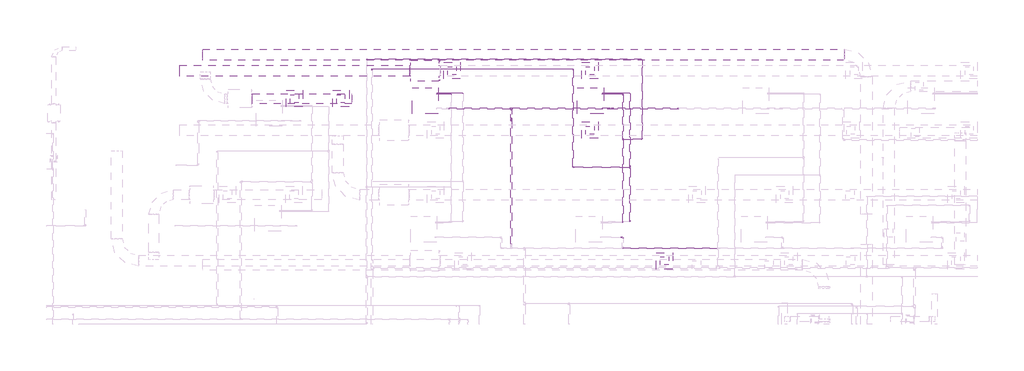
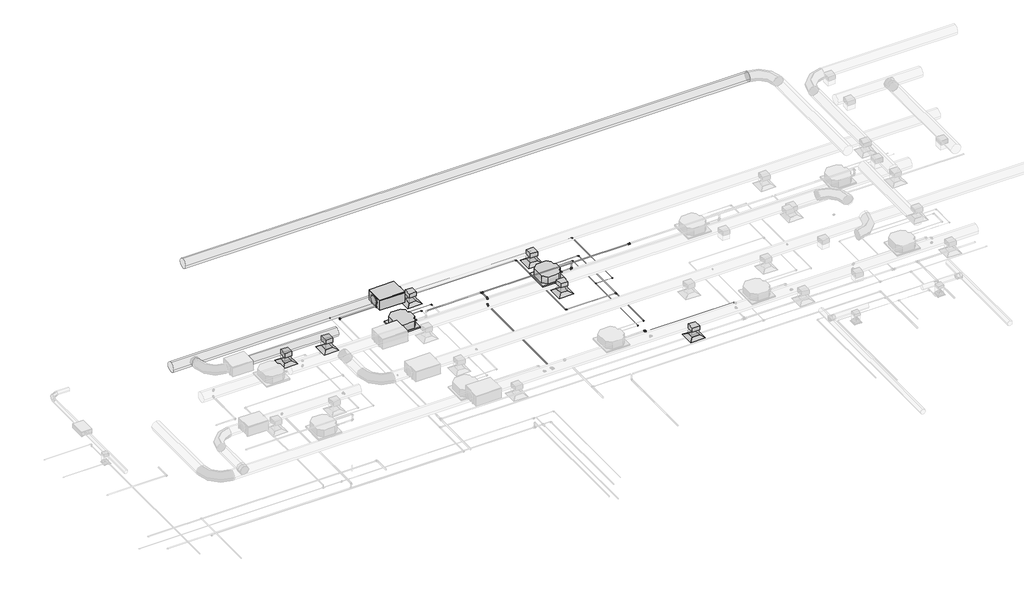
# One storey, part 17 of 21: 29 pipe fittings, 22 pipe segments, 9 duct segments, 6 air terminals, 6 duct fittings, 3 proxies.
"""IFC4 building model written with IfcOpenShell, lengths in millimetres."""

from ifc_helpers import new_model, si_unit, point, frame, frame_2d, origin, place, context, project, spatial, polyline, circle_curve, trimmed, segment, composite_curve, outline, extrude, transform, mapped, element, save
from ifc_brep_helpers import plane_surface, cylinder_surface, advanced_brep
from components import air_terminal_ff221211, mechanical_equipment_53173f38, fh_fh_400_6e0c7af0, duct_fitting_95c1ddea, duct_fitting_550a0fe9, pipe_fitting_0ad7e8bf, pipe_fitting_144f4440, pipe_fitting_14eb6376, pipe_fitting_103655aa, pipe_fitting_1f557113, pipe_fitting_a5ff4f7d, pipe_fitting_660e7500, pipe_fitting_5aefb692, pipe_fitting_089e84c0, pipe_fitting_2b321e5a, pipe_fitting_1c393463, pipe_fitting_c900cfc2, pipe_fitting_16c020f5, pipe_fitting_648138cd, pipe_fitting_b0e77d1d, pipe_fitting_725bd888, pipe_fitting_c180495a

model = new_model("IFC4")

# Units and contexts
model_context = context("Model", 3, world=origin())
ifc_project = project(units=[si_unit("LENGTHUNIT", "METRE", prefix="MILLI")], contexts=[model_context])

# Site, building, storey
site = spatial("IfcSite", under=ifc_project)
building = spatial("IfcBuilding", under=site)
storey = spatial("IfcBuildingStorey", under=building, Name="Nível 1", Elevation=0.0)

# Air terminals
placement = place(None, origin())
air_terminal_shape = air_terminal_ff221211(model_context)
element("IfcAirTerminal", 1, ObjectType="M_Difusor de retorno : 600 x 600 Face 300 x 300 Conexão", at=placement, inside=storey, context=model_context, shape_type="MappedRepresentation", body=[
    mapped(air_terminal_shape, transform((14874.4867035, 2283.4261027, 3000.0), x_axis=(0.0, -1.0, 0.0), y_axis=(1.0, 0.0, 0.0), z_axis=(0.0, 0.0, 1.0))),
])
element("IfcAirTerminal", 2, ObjectType="M_Difusor de retorno : 600 x 600 Face 300 x 300 Conexão", at=placement, inside=storey, context=model_context, shape_type="MappedRepresentation", body=[
    mapped(air_terminal_shape, transform((12170.238795, 9183.4261027, 3000.0), x_axis=(0.0, -1.0, 0.0), y_axis=(1.0, 0.0, 0.0), z_axis=(0.0, 0.0, 1.0))),
])
element("IfcAirTerminal", 3, ObjectType="M_Difusor de retorno : 600 x 600 Face 300 x 300 Conexão", at=placement, inside=storey, context=model_context, shape_type="MappedRepresentation", body=[
    mapped(air_terminal_shape, transform((7167.8281628, 9183.4261027, 3000.0), x_axis=(0.0, -1.0, 0.0), y_axis=(1.0, 0.0, 0.0), z_axis=(0.0, 0.0, 1.0))),
])
element("IfcAirTerminal", 4, ObjectType="M_Difusor de retorno : 600 x 600 Face 300 x 300 Conexão", at=placement, inside=storey, context=model_context, shape_type="MappedRepresentation", body=[
    mapped(air_terminal_shape, transform((3130.6311786, 8168.767415, 3000.0), x_axis=(0.0, -1.0, 0.0), y_axis=(1.0, 0.0, 0.0), z_axis=(0.0, 0.0, 1.0))),
])
element("IfcAirTerminal", 5, ObjectType="M_Difusor de retorno : 600 x 600 Face 300 x 300 Conexão", at=placement, inside=storey, context=model_context, shape_type="MappedRepresentation", body=[
    mapped(air_terminal_shape, transform((1443.1903317, 8168.767415, 3000.0), x_axis=(0.0, -1.0, 0.0), y_axis=(1.0, 0.0, 0.0), z_axis=(0.0, 0.0, 1.0))),
])
element("IfcAirTerminal", 6, ObjectType="M_Difusor de fornecimento : 600 x 600 Face 300 x 300 Conexão", at=placement, inside=storey, context=model_context, shape_type="MappedRepresentation", body=[
    mapped(air_terminal_shape, transform((12173.5503957, 7022.5342821, 3000.0), x_axis=(0.0, -1.0, 0.0), y_axis=(1.0, 0.0, 0.0), z_axis=(0.0, 0.0, 1.0))),
])

# Proxies
mechanical_equipment_shape = mechanical_equipment_53173f38(model_context)
element("IfcBuildingElementProxy", 7, Name="Midea_VRF_Indoor_4-way Cassette_MI-90(100,112,140)Q4_DHN1-D (2nd DC) : MI2-112Q4DHN1", ObjectType="Midea_VRF_Indoor_4-way Cassette_MI-90(100,112,140)Q4_DHN1-D (2nd DC) : MI2-112Q4DHN1", at=placement, inside=storey, context=model_context, shape_type="MappedRepresentation", body=[
    mapped(mechanical_equipment_shape, transform((6191.7954066, 8095.8048285, 3000.0), x_axis=(1.0, 0.0, 0.0), y_axis=(0.0, 1.0, 0.0), z_axis=(0.0, 0.0, 1.0))),
])
element("IfcBuildingElementProxy", 8, Name="Midea_VRF_Indoor_4-way Cassette_MI-90(100,112,140)Q4_DHN1-D (2nd DC) : MI2-112Q4DHN1", ObjectType="Midea_VRF_Indoor_4-way Cassette_MI-90(100,112,140)Q4_DHN1-D (2nd DC) : MI2-112Q4DHN1", at=placement, inside=storey, context=model_context, shape_type="MappedRepresentation", body=[
    mapped(mechanical_equipment_shape, transform((12191.7954066, 8095.8048285, 3000.0), x_axis=(1.0, 0.0, 0.0), y_axis=(0.0, 1.0, 0.0), z_axis=(0.0, 0.0, 1.0))),
])
fh_fh_400_shape = fh_fh_400_6e0c7af0(model_context)
element("IfcBuildingElementProxy", 9, Name="FH : FH 400", ObjectType="FH : FH 400", at=placement, inside=storey, context=model_context, shape_type="MappedRepresentation", body=[
    mapped(fh_fh_400_shape, transform((6183.0801877, 9183.4261027, 3400.0), x_axis=(0.0, 1.0, 0.0), y_axis=(-1.0, 0.0, 0.0), z_axis=(0.0, 0.0, 1.0))),
])

# Duct fittings
duct_fitting_shape = duct_fitting_95c1ddea(model_context)
element("IfcDuctFitting", 10, ObjectType="M_Encaixe de duto retangular : Padrão", at=placement, inside=storey, context=model_context, shape_type="MappedRepresentation", body=[
    mapped(duct_fitting_shape, transform((12173.5503957, 7022.5342821, 3421.0), x_axis=(0.0, 0.0, -1.0), y_axis=(-1.0, 0.0, 0.0), z_axis=(0.0, 1.0, 0.0))),
])
element("IfcDuctFitting", 11, ObjectType="M_Encaixe de duto retangular : Padrão", at=placement, inside=storey, context=model_context, shape_type="MappedRepresentation", body=[
    mapped(duct_fitting_shape, transform((14874.4867035, 2283.4261027, 3421.0), x_axis=(0.0, 0.0, -1.0), y_axis=(-1.0, 0.0, 0.0), z_axis=(0.0, 1.0, 0.0))),
])
element("IfcDuctFitting", 12, ObjectType="M_Encaixe de duto retangular : Padrão", at=placement, inside=storey, context=model_context, shape_type="MappedRepresentation", body=[
    mapped(duct_fitting_shape, transform((12170.238795, 9183.4261027, 3421.0), x_axis=(0.0, 0.0, -1.0), y_axis=(-1.0, 0.0, 0.0), z_axis=(0.0, 1.0, 0.0))),
])
element("IfcDuctFitting", 13, ObjectType="M_Encaixe de duto retangular : Padrão", at=placement, inside=storey, context=model_context, shape_type="MappedRepresentation", body=[
    mapped(duct_fitting_shape, transform((7167.8281628, 9183.4261027, 3421.0), x_axis=(0.0, 0.0, -1.0), y_axis=(-1.0, 0.0, 0.0), z_axis=(0.0, 1.0, 0.0))),
])
duct_fitting_2_shape = duct_fitting_550a0fe9(model_context)
element("IfcDuctFitting", 14, ObjectType="M_Encaixe de duto retangular : Padrão", at=placement, inside=storey, context=model_context, shape_type="MappedRepresentation", body=[
    mapped(duct_fitting_2_shape, transform((3130.6311786, 8168.767415, 3427.5), x_axis=(0.0, 0.0, -1.0), y_axis=(-1.0, 0.0, 0.0), z_axis=(0.0, 1.0, 0.0))),
])
element("IfcDuctFitting", 15, ObjectType="M_Encaixe de duto retangular : Padrão", at=placement, inside=storey, context=model_context, shape_type="MappedRepresentation", body=[
    mapped(duct_fitting_2_shape, transform((1443.1903317, 8168.767415, 3427.5), x_axis=(0.0, 0.0, -1.0), y_axis=(-1.0, 0.0, 0.0), z_axis=(0.0, 1.0, 0.0))),
])

# Duct segments
element("IfcDuctSegment", 16, ObjectType="Torneiras / Raio curto", at=placement, inside=storey, context=model_context, shape_type="SweptSolid", body=[
    extrude(outline(composite_curve([segment(trimmed(circle_curve(frame_2d((9183.4261027, 3621.0)), 200.0), [point((9383.4261027, 3621.0))], [point((9183.4261027, 3421.0))], False, "CARTESIAN"), True, "CONTINUOUS"), segment(trimmed(circle_curve(frame_2d((9183.4261027, 3621.0)), 200.0), [point((9183.4261027, 3421.0))], [point((8983.4261027, 3621.0))], False, "CARTESIAN"), True, "CONTINUOUS"), segment(trimmed(circle_curve(frame_2d((9183.4261027, 3621.0)), 200.0), [point((8983.4261027, 3621.0))], [point((9183.4261027, 3821.0))], False, "CARTESIAN"), True, "CONTINUOUS"), segment(trimmed(circle_curve(frame_2d((9183.4261027, 3621.0)), 200.0), [point((9183.4261027, 3821.0))], [point((9383.4261027, 3621.0))], False, "CARTESIAN"), True, "CONTINUOUS")], self_intersect=False)), frame((-2725.4857997, 0.0, 0.0), z_axis=(1.0, 0.0, 0.0), x_axis=(0.0, 1.0, 0.0)), (0.0, 0.0, 1.0), 8361.5659874),
])
element("IfcDuctSegment", 17, ObjectType="Raios cotovelos / torneiras", at=placement, inside=storey, context=model_context, shape_type="SweptSolid", body=[
    extrude(outline(polyline([(12323.5503957, 6872.5342821), (12023.5503957, 6872.5342821), (12023.5503957, 7172.5342821), (12323.5503957, 7172.5342821), (12323.5503957, 6872.5342821)])), frame((0.0, 0.0, 3101.6), z_axis=(0.0, 0.0, 1.0), x_axis=(1.0, 0.0, 0.0)), (0.0, 0.0, 1.0), 217.8),
])
element("IfcDuctSegment", 18, ObjectType="Raios cotovelos / torneiras", at=placement, inside=storey, context=model_context, shape_type="SweptSolid", body=[
    extrude(outline(polyline([(15024.4867035, 2133.4261027), (14724.4867035, 2133.4261027), (14724.4867035, 2433.4261027), (15024.4867035, 2433.4261027), (15024.4867035, 2133.4261027)])), frame((0.0, 0.0, 3101.6), z_axis=(0.0, 0.0, 1.0), x_axis=(1.0, 0.0, 0.0)), (0.0, 0.0, 1.0), 217.8),
])
element("IfcDuctSegment", 19, ObjectType="Raios cotovelos / torneiras", at=placement, inside=storey, context=model_context, shape_type="SweptSolid", body=[
    extrude(outline(polyline([(12320.238795, 9033.4261027), (12020.238795, 9033.4261027), (12020.238795, 9333.4261027), (12320.238795, 9333.4261027), (12320.238795, 9033.4261027)])), frame((0.0, 0.0, 3101.6), z_axis=(0.0, 0.0, 1.0), x_axis=(1.0, 0.0, 0.0)), (0.0, 0.0, 1.0), 217.8),
])
element("IfcDuctSegment", 20, ObjectType="Raios cotovelos / torneiras", at=placement, inside=storey, context=model_context, shape_type="SweptSolid", body=[
    extrude(outline(polyline([(7317.8281628, 9033.4261027), (7017.8281628, 9033.4261027), (7017.8281628, 9333.4261027), (7317.8281628, 9333.4261027), (7317.8281628, 9033.4261027)])), frame((0.0, 0.0, 3101.6), z_axis=(0.0, 0.0, 1.0), x_axis=(1.0, 0.0, 0.0)), (0.0, 0.0, 1.0), 217.8),
])
element("IfcDuctSegment", 21, ObjectType="Torneiras / Raio curto", at=placement, inside=storey, context=model_context, shape_type="SweptSolid", body=[
    extrude(outline(composite_curve([segment(trimmed(circle_curve(frame_2d((8168.767415, 3605.0)), 177.5), [point((7991.267415, 3605.0))], [point((8168.767415, 3782.5))], False, "CARTESIAN"), True, "CONTINUOUS"), segment(trimmed(circle_curve(frame_2d((8168.767415, 3605.0)), 177.5), [point((8168.767415, 3782.5))], [point((8346.267415, 3605.0))], False, "CARTESIAN"), True, "CONTINUOUS"), segment(trimmed(circle_curve(frame_2d((8168.767415, 3605.0)), 177.5), [point((8346.267415, 3605.0))], [point((8168.767415, 3427.5))], False, "CARTESIAN"), True, "CONTINUOUS"), segment(trimmed(circle_curve(frame_2d((8168.767415, 3605.0)), 177.5), [point((8168.767415, 3427.5))], [point((7991.267415, 3605.0))], False, "CARTESIAN"), True, "CONTINUOUS")], self_intersect=False)), frame((-78.9060918, 0.0, 0.0), z_axis=(1.0, 0.0, 0.0), x_axis=(0.0, 1.0, 0.0)), (0.0, 0.0, 1.0), 3600.0),
])
element("IfcDuctSegment", 22, ObjectType="Raios cotovelos / torneiras", at=placement, inside=storey, context=model_context, shape_type="SweptSolid", body=[
    extrude(outline(polyline([(3280.6311786, 8018.767415), (2980.6311786, 8018.767415), (2980.6311786, 8318.767415), (3280.6311786, 8318.767415), (3280.6311786, 8018.767415)])), frame((0.0, 0.0, 3101.6), z_axis=(0.0, 0.0, 1.0), x_axis=(1.0, 0.0, 0.0)), (0.0, 0.0, 1.0), 224.3),
])
element("IfcDuctSegment", 23, ObjectType="Raios cotovelos / torneiras", at=placement, inside=storey, context=model_context, shape_type="SweptSolid", body=[
    extrude(outline(polyline([(1593.1903317, 8018.767415), (1293.1903317, 8018.767415), (1293.1903317, 8318.767415), (1593.1903317, 8318.767415), (1593.1903317, 8018.767415)])), frame((0.0, 0.0, 3101.6), z_axis=(0.0, 0.0, 1.0), x_axis=(1.0, 0.0, 0.0)), (0.0, 0.0, 1.0), 224.3),
])
element("IfcDuctSegment", 24, ObjectType="Torneiras / Raio curto", at=placement, inside=storey, context=model_context, shape_type="SweptSolid", body=[
    extrude(outline(composite_curve([segment(trimmed(circle_curve(frame_2d((9769.8368648, 7501.0)), 200.0), [point((9969.8368648, 7501.0))], [point((9769.8368648, 7301.0))], False, "CARTESIAN"), True, "CONTINUOUS"), segment(trimmed(circle_curve(frame_2d((9769.8368648, 7501.0)), 200.0), [point((9769.8368648, 7301.0))], [point((9569.8368648, 7501.0))], False, "CARTESIAN"), True, "CONTINUOUS"), segment(trimmed(circle_curve(frame_2d((9769.8368648, 7501.0)), 200.0), [point((9569.8368648, 7501.0))], [point((9769.8368648, 7701.0))], False, "CARTESIAN"), True, "CONTINUOUS"), segment(trimmed(circle_curve(frame_2d((9769.8368648, 7501.0)), 200.0), [point((9769.8368648, 7701.0))], [point((9969.8368648, 7501.0))], False, "CARTESIAN"), True, "CONTINUOUS")], self_intersect=False)), frame((-1887.8516959, 0.0, 0.0), z_axis=(1.0, 0.0, 0.0), x_axis=(0.0, 1.0, 0.0)), (0.0, 0.0, 1.0), 23300.0),
])

# Pipe fittings
pipe_fitting_shape = pipe_fitting_0ad7e8bf(model_context)
element("IfcPipeFitting", 25, ObjectType="Cotovelo - Soldado - CU : Padrão", at=placement, inside=storey, context=model_context, shape_type="MappedRepresentation", body=[
    mapped(pipe_fitting_shape, transform((4261.4781645, 9246.5759778, 3252.3), x_axis=(-1.0, 0.0, 0.0), y_axis=(0.0, -1.0, 0.0), z_axis=(0.0, 0.0, 1.0))),
])
pipe_fitting_2_shape = pipe_fitting_144f4440(model_context)
element("IfcPipeFitting", 26, ObjectType="Cotovelo - PVC - CW : Padrão", at=placement, inside=storey, context=model_context, shape_type="MappedRepresentation", body=[
    mapped(pipe_fitting_2_shape, transform((13361.4781645, 3141.4200133, 3252.3), x_axis=(0.0, 1.0, 0.0), y_axis=(-0.9999999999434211, 0.0, 1.0637566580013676e-05), z_axis=(1.0637566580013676e-05, 0.0, 0.9999999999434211))),
])
element("IfcPipeFitting", 27, ObjectType="Cotovelo - PVC - CW : Padrão", at=placement, inside=storey, context=model_context, shape_type="MappedRepresentation", body=[
    mapped(pipe_fitting_2_shape, transform((9316.7954065, 7410.8048285, 3200.0), x_axis=(0.0, 0.0, -1.0), y_axis=(0.0, -1.0, 0.0), z_axis=(-1.0, 0.0, 0.0))),
])
element("IfcPipeFitting", 28, ObjectType="Cotovelo - PVC - CW : Padrão", at=placement, inside=storey, context=model_context, shape_type="MappedRepresentation", body=[
    mapped(pipe_fitting_2_shape, transform((9316.7954065, 7410.8048285, 3500.0), x_axis=(0.0, 0.0, 1.0), y_axis=(0.0, 1.0, 0.0), z_axis=(-1.0, 0.0, 0.0))),
])
pipe_fitting_3_shape = pipe_fitting_14eb6376(model_context)
element("IfcPipeFitting", 29, ObjectType="Tê de redução - PVC - CW : Padrão", at=placement, inside=storey, context=model_context, shape_type="MappedRepresentation", body=[
    mapped(pipe_fitting_3_shape, transform((9316.7954065, 7810.8048285, 3500.0), x_axis=(-1.0, 0.0, 0.0), y_axis=(0.0, 1.0, 0.0), z_axis=(0.0, 0.0, -1.0))),
])
pipe_fitting_4_shape = pipe_fitting_103655aa(model_context)
element("IfcPipeFitting", 30, ObjectType="Cotovelo - PVC - CW : Padrão", at=placement, inside=storey, context=model_context, shape_type="MappedRepresentation", body=[
    mapped(pipe_fitting_4_shape, transform((13016.7954064, 7810.8048285, 3252.2971633), x_axis=(0.9999999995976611, 0.0, -2.8366844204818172e-05), y_axis=(2.8366844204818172e-05, 0.0, 0.9999999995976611), z_axis=(0.0, -1.0, 0.0))),
])
pipe_fitting_5_shape = pipe_fitting_1f557113(model_context)
element("IfcPipeFitting", 31, ObjectType="Redutor de acoplamento - PVC - CW : Padrão", at=placement, inside=storey, context=model_context, shape_type="MappedRepresentation", body=[
    mapped(pipe_fitting_5_shape, transform((15355.5954065, 7810.8048285, 3500.0), x_axis=(1.0, 0.0, 0.0), y_axis=(0.0, 1.0, 0.0), z_axis=(0.0, 0.0, 1.0))),
])
pipe_fitting_6_shape = pipe_fitting_a5ff4f7d(model_context)
element("IfcPipeFitting", 32, ObjectType="Bucha de redução reta - Soldada - CU : Padrão", at=placement, inside=storey, context=model_context, shape_type="MappedRepresentation", body=[
    mapped(pipe_fitting_6_shape, transform((13629.4543066, 5713.2546778, 3252.3085101), x_axis=(0.0, 1.0, 0.0), y_axis=(-1.0, 0.0, 0.0), z_axis=(0.0, 0.0, 1.0))),
])
element("IfcPipeFitting", 33, ObjectType="Bucha de redução reta - Soldada - CU : Padrão", at=placement, inside=storey, context=model_context, shape_type="MappedRepresentation", body=[
    mapped(pipe_fitting_6_shape, transform((13629.4543066, 5647.7604778, 3252.3085101), x_axis=(0.0, -1.0, 0.0), y_axis=(1.0, 0.0, 0.0), z_axis=(0.0, 0.0, 1.0))),
])
pipe_fitting_7_shape = pipe_fitting_660e7500(model_context)
element("IfcPipeFitting", 34, ObjectType="Tê - Soldado - CU : Padrão", at=placement, inside=storey, context=model_context, shape_type="MappedRepresentation", body=[
    mapped(pipe_fitting_7_shape, transform((13629.4543066, 5680.5075778, 3252.3085101), x_axis=(0.0, -1.0, 0.0), y_axis=(1.0, 0.0, 0.0), z_axis=(0.0, 0.0, 1.0))),
])
pipe_fitting_8_shape = pipe_fitting_5aefb692(model_context)
element("IfcPipeFitting", 35, ObjectType="Cotovelo - Soldado - CU : Padrão", at=placement, inside=storey, context=model_context, shape_type="MappedRepresentation", body=[
    mapped(pipe_fitting_8_shape, transform((11561.4781645, 9246.5759778, 3252.3), x_axis=(0.0, 1.0, 0.0), y_axis=(-1.0, 0.0, 0.0), z_axis=(0.0, 0.0, 1.0))),
])
element("IfcPipeFitting", 36, ObjectType="Cotovelo - Soldado - CU : Padrão", at=placement, inside=storey, context=model_context, shape_type="MappedRepresentation", body=[
    mapped(pipe_fitting_8_shape, transform((11561.4781645, 5680.5075778, 3252.3), x_axis=(0.0, -1.0, 0.0), y_axis=(0.9999999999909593, 0.0, 4.2522279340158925e-06), z_axis=(-4.2522279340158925e-06, 0.0, 0.9999999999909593))),
])
pipe_fitting_9_shape = pipe_fitting_089e84c0(model_context)
element("IfcPipeFitting", 37, ObjectType="Bucha de redução reta - Soldada - CU : Padrão", at=placement, inside=storey, context=model_context, shape_type="MappedRepresentation", body=[
    mapped(pipe_fitting_9_shape, transform((13371.1525621, 8310.8132003, 3146.7770583), x_axis=(0.0, -0.9999999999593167, 9.020347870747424e-06), y_axis=(0.9999999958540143, -8.213952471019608e-10, -9.106026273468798e-05), z_axis=(9.106026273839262e-05, 9.020347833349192e-06, 0.999999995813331))),
])
pipe_fitting_10_shape = pipe_fitting_2b321e5a(model_context)
element("IfcPipeFitting", 38, ObjectType="Bucha de redução reta - Soldada - CU : Padrão", at=placement, inside=storey, context=model_context, shape_type="MappedRepresentation", body=[
    mapped(pipe_fitting_10_shape, transform((7113.426963, 8335.2132003, 3146.801992), x_axis=(-0.999999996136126, 0.0, 8.790761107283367e-05), y_axis=(3.6470716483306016e-11, -0.9999999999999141, 4.1487552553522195e-07), z_axis=(8.790761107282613e-05, 4.148755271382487e-07, 0.99999999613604))),
])
pipe_fitting_11_shape = pipe_fitting_1c393463(model_context)
element("IfcPipeFitting", 39, ObjectType="Bucha de redução reta - Soldada - CU : Padrão", at=placement, inside=storey, context=model_context, shape_type="MappedRepresentation", body=[
    mapped(pipe_fitting_11_shape, transform((4318.4865645, 9246.5759778, 3252.3), x_axis=(-1.0, 0.0, 0.0), y_axis=(0.0, -1.0, 0.0), z_axis=(0.0, 0.0, 1.0))),
])
pipe_fitting_12_shape = pipe_fitting_c900cfc2(model_context)
element("IfcPipeFitting", 40, ObjectType="Bucha de redução reta - Soldada - CU : Padrão", at=placement, inside=storey, context=model_context, shape_type="MappedRepresentation", body=[
    mapped(pipe_fitting_12_shape, transform((6616.7954066, 8369.0156421, 3252.3085101), x_axis=(1.0, 0.0, 0.0), y_axis=(0.0, 1.0, 0.0), z_axis=(0.0, 0.0, 1.0))),
])
element("IfcPipeFitting", 41, ObjectType="Bucha de redução reta - Soldada - CU : Padrão", at=placement, inside=storey, context=model_context, shape_type="MappedRepresentation", body=[
    mapped(pipe_fitting_12_shape, transform((12616.7954066, 8369.0156421, 3252.3085101), x_axis=(1.0, 0.0, 0.0), y_axis=(0.0, 1.0, 0.0), z_axis=(0.0, 0.0, 1.0))),
])
pipe_fitting_13_shape = pipe_fitting_16c020f5(model_context)
element("IfcPipeFitting", 42, ObjectType="Cotovelo - Soldado - CU : Padrão", at=placement, inside=storey, context=model_context, shape_type="MappedRepresentation", body=[
    mapped(pipe_fitting_13_shape, transform((7561.4781645, 8369.0156421, 3252.3085101), x_axis=(0.0, 1.0, 0.0), y_axis=(-1.0, 0.0, 0.0), z_axis=(0.0, 0.0, 1.0))),
])
element("IfcPipeFitting", 43, ObjectType="Cotovelo - Soldado - CU : Padrão", at=placement, inside=storey, context=model_context, shape_type="MappedRepresentation", body=[
    mapped(pipe_fitting_13_shape, transform((13629.4543066, 3699.630827, 3252.3085101), x_axis=(1.0, 0.0, 0.0), y_axis=(0.0, 1.0, 0.0), z_axis=(0.0, 0.0, 1.0))),
])
element("IfcPipeFitting", 44, ObjectType="Cotovelo - Soldado - CU : Padrão", at=placement, inside=storey, context=model_context, shape_type="MappedRepresentation", body=[
    mapped(pipe_fitting_13_shape, transform((13629.4543066, 8369.0156421, 3252.3085101), x_axis=(0.0, 1.0, 0.0), y_axis=(-1.0, 0.0, 0.0), z_axis=(0.0, 0.0, 1.0))),
])
pipe_fitting_14_shape = pipe_fitting_648138cd(model_context)
element("IfcPipeFitting", 45, ObjectType="Cotovelo - Soldado - CU : Padrão", at=placement, inside=storey, context=model_context, shape_type="MappedRepresentation", body=[
    mapped(pipe_fitting_14_shape, transform((7137.4525629, 8335.2132003, 3146.7998799), x_axis=(0.0, 0.999999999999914, -4.148755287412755e-07), y_axis=(-0.999999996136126, 3.6470716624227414e-11, 8.790761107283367e-05), z_axis=(8.790761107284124e-05, 4.148755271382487e-07, 0.99999999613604))),
])
element("IfcPipeFitting", 46, ObjectType="Cotovelo - Soldado - CU : Padrão", at=placement, inside=storey, context=model_context, shape_type="MappedRepresentation", body=[
    mapped(pipe_fitting_14_shape, transform((4067.8281628, 9598.5196254, 3146.8), x_axis=(-1.0, 0.0, 0.0), y_axis=(0.0, -1.0, 0.0), z_axis=(0.0, 0.0, 1.0))),
])
element("IfcPipeFitting", 47, ObjectType="Cotovelo - Soldado - CU : Padrão", at=placement, inside=storey, context=model_context, shape_type="MappedRepresentation", body=[
    mapped(pipe_fitting_14_shape, transform((14067.8281628, 9598.5196254, 3146.8), x_axis=(0.0, 1.0, 0.0), y_axis=(-1.0, 0.0, 0.0), z_axis=(0.0, 0.0, 1.0))),
])
element("IfcPipeFitting", 48, ObjectType="Cotovelo - Soldado - CU : Padrão", at=placement, inside=storey, context=model_context, shape_type="MappedRepresentation", body=[
    mapped(pipe_fitting_14_shape, transform((13371.1525641, 3665.8283851, 3146.8189576), x_axis=(0.9999999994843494, 0.0, -3.211388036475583e-05), y_axis=(-2.8967837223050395e-10, 0.9999999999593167, -9.020347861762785e-06), z_axis=(3.211388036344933e-05, 9.020347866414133e-06, 0.999999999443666))),
])
element("IfcPipeFitting", 49, ObjectType="Cotovelo - Soldado - CU : Padrão", at=placement, inside=storey, context=model_context, shape_type="MappedRepresentation", body=[
    mapped(pipe_fitting_14_shape, transform((14067.8281628, 6698.5196254, 3146.8), x_axis=(0.9999999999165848, 0.0, 1.2916288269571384e-05), y_axis=(0.0, 1.0000000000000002, 0.0), z_axis=(-1.2916288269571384e-05, 0.0, 0.9999999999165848))),
])
pipe_fitting_15_shape = pipe_fitting_b0e77d1d(model_context)
element("IfcPipeFitting", 50, ObjectType="Bucha de redução reta - Soldada - CU : Padrão", at=placement, inside=storey, context=model_context, shape_type="MappedRepresentation", body=[
    mapped(pipe_fitting_15_shape, transform((6616.7954066, 8335.2132003, 3146.8446487), x_axis=(1.0, 0.0, 0.0), y_axis=(0.0, 1.0, 0.0), z_axis=(0.0, 0.0, 1.0))),
])
element("IfcPipeFitting", 51, ObjectType="Bucha de redução reta - Soldada - CU : Padrão", at=placement, inside=storey, context=model_context, shape_type="MappedRepresentation", body=[
    mapped(pipe_fitting_15_shape, transform((12616.7954066, 8335.2132003, 3146.8446487), x_axis=(1.0, 0.0, 0.0), y_axis=(0.0, 1.0, 0.0), z_axis=(0.0, 0.0, 1.0))),
])
pipe_fitting_16_shape = pipe_fitting_725bd888(model_context)
element("IfcPipeFitting", 52, ObjectType="Tê - Soldado - CU : Padrão", at=placement, inside=storey, context=model_context, shape_type="MappedRepresentation", body=[
    mapped(pipe_fitting_16_shape, transform((13371.1525641, 6698.5196254, 3146.7916017), x_axis=(0.0, -0.9999999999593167, 9.020347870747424e-06), y_axis=(-1.0, 0.0, 0.0), z_axis=(0.0, -9.020347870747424e-06, -0.9999999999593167))),
])
pipe_fitting_17_shape = pipe_fitting_c180495a(model_context)
element("IfcPipeFitting", 53, ObjectType="Cotovelo - Soldado - CU : Padrão", at=placement, inside=storey, context=model_context, shape_type="MappedRepresentation", body=[
    mapped(pipe_fitting_17_shape, transform((13371.1525621, 8335.2132003, 3146.7768382), x_axis=(0.0, 0.9999999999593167, -9.020347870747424e-06), y_axis=(-0.9999999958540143, 8.213952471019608e-10, 9.106026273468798e-05), z_axis=(9.106026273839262e-05, 9.020347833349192e-06, 0.999999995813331))),
])

# Pipe segments
element("IfcPipeSegment", 54, ObjectType="Tubos de cobre HVAC", at=placement, inside=storey, context=model_context, shape_type="SweptSolid", body=[
    extrude(outline(composite_curve([segment(trimmed(circle_curve(frame_2d((8369.0156421, 3252.3085101)), 7.935), [point((8361.0806421, 3252.3085101))], [point((8369.0156421, 3260.2435101))], False, "CARTESIAN"), True, "CONTINUOUS"), segment(trimmed(circle_curve(frame_2d((8369.0156421, 3252.3085101)), 7.935), [point((8369.0156421, 3260.2435101))], [point((8376.9506421, 3252.3085101))], False, "CARTESIAN"), True, "CONTINUOUS"), segment(trimmed(circle_curve(frame_2d((8369.0156421, 3252.3085101)), 7.935), [point((8376.9506421, 3252.3085101))], [point((8369.0156421, 3244.3735101))], False, "CARTESIAN"), True, "CONTINUOUS"), segment(trimmed(circle_curve(frame_2d((8369.0156421, 3252.3085101)), 7.935), [point((8369.0156421, 3244.3735101))], [point((8361.0806421, 3252.3085101))], False, "CARTESIAN"), True, "CONTINUOUS")], self_intersect=False)), frame((6629.4543066, 0.0, 0.0), z_axis=(1.0, 0.0, 0.0), x_axis=(0.0, 1.0, 0.0)), (0.0, 0.0, 1.0), 903.0452579),
])
element("IfcPipeSegment", 55, ObjectType="Tubos de cobre HVAC", at=placement, inside=storey, context=model_context, shape_type="SweptSolid", body=[
    extrude(outline(composite_curve([segment(trimmed(circle_curve(frame_2d((8369.0156421, 3252.3085101)), 7.935), [point((8361.0806421, 3252.3085101))], [point((8369.0156421, 3260.2435101))], False, "CARTESIAN"), True, "CONTINUOUS"), segment(trimmed(circle_curve(frame_2d((8369.0156421, 3252.3085101)), 7.935), [point((8369.0156421, 3260.2435101))], [point((8376.9506421, 3252.3085101))], False, "CARTESIAN"), True, "CONTINUOUS"), segment(trimmed(circle_curve(frame_2d((8369.0156421, 3252.3085101)), 7.935), [point((8376.9506421, 3252.3085101))], [point((8369.0156421, 3244.3735101))], False, "CARTESIAN"), True, "CONTINUOUS"), segment(trimmed(circle_curve(frame_2d((8369.0156421, 3252.3085101)), 7.935), [point((8369.0156421, 3244.3735101))], [point((8361.0806421, 3252.3085101))], False, "CARTESIAN"), True, "CONTINUOUS")], self_intersect=False)), frame((12629.4543066, 0.0, 0.0), z_axis=(1.0, 0.0, 0.0), x_axis=(0.0, 1.0, 0.0)), (0.0, 0.0, 1.0), 971.0214),
])
element("IfcPipeSegment", 56, ObjectType="Tubos de cobre HVAC", at=placement, inside=storey, context=model_context, shape_type="SweptSolid", body=[
    extrude(outline(composite_curve([segment(trimmed(circle_curve(frame_2d((0.0, -4.76)), 4.76), [point((-4.76, -4.76))], [point((0.0, 0.0))], False, "CARTESIAN"), True, "CONTINUOUS"), segment(trimmed(circle_curve(frame_2d((0.0, -4.76)), 4.76), [point((0.0, 0.0))], [point((4.76, -4.76))], False, "CARTESIAN"), True, "CONTINUOUS"), segment(trimmed(circle_curve(frame_2d((0.0, -4.76)), 4.76), [point((4.76, -4.76))], [point((0.0, -9.52))], False, "CARTESIAN"), True, "CONTINUOUS"), segment(trimmed(circle_curve(frame_2d((0.0, -4.76)), 4.76), [point((0.0, -9.52))], [point((-4.76, -4.76))], False, "CARTESIAN"), True, "CONTINUOUS")], self_intersect=False)), frame((7103.7521446, 8335.2132003, 3142.0426924), z_axis=(-0.999999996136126, 0.0, 8.790761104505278e-05), x_axis=(0.0, 1.0, 0.0)), (0.0, 0.0, 1.0), 477.2780583),
])
element("IfcPipeSegment", 57, ObjectType="Tubos de cobre HVAC", at=placement, inside=storey, context=model_context, shape_type="SweptSolid", body=[
    extrude(outline(composite_curve([segment(trimmed(circle_curve(frame_2d((0.0, -4.7599999)), 4.76), [point((-4.76, -4.7599999))], [point((0.0, 0.0))], False, "CARTESIAN"), True, "CONTINUOUS"), segment(trimmed(circle_curve(frame_2d((0.0, -4.7599999)), 4.76), [point((0.0, 0.0))], [point((4.76, -4.7599999))], False, "CARTESIAN"), True, "CONTINUOUS"), segment(trimmed(circle_curve(frame_2d((0.0, -4.7599999)), 4.76), [point((4.76, -4.7599999))], [point((0.0, -9.5199999))], False, "CARTESIAN"), True, "CONTINUOUS"), segment(trimmed(circle_curve(frame_2d((0.0, -4.7599999)), 4.76), [point((0.0, -9.5199999))], [point((-4.76, -4.7599999))], False, "CARTESIAN"), True, "CONTINUOUS")], self_intersect=False)), frame((13346.7521287, 8335.2132003, 3142.0190601), z_axis=(-0.9999999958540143, 0.0, 9.106026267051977e-05), x_axis=(0.0, 1.0, 0.0)), (0.0, 0.0, 1.0), 720.2780586),
])
element("IfcPipeSegment", 58, ObjectType="Plástico", at=placement, inside=storey, context=model_context, shape_type="SweptSolid", body=[
    extrude(outline(composite_curve([segment(trimmed(circle_curve(frame_2d((3500.0, 9316.7954065)), 20.0), [point((3500.0, 9336.7954065))], [point((3520.0, 9316.7954065))], False, "CARTESIAN"), True, "CONTINUOUS"), segment(trimmed(circle_curve(frame_2d((3500.0, 9316.7954065)), 20.0), [point((3520.0, 9316.7954065))], [point((3500.0, 9296.7954065))], False, "CARTESIAN"), True, "CONTINUOUS"), segment(trimmed(circle_curve(frame_2d((3500.0, 9316.7954065)), 20.0), [point((3500.0, 9296.7954065))], [point((3480.0, 9316.7954065))], False, "CARTESIAN"), True, "CONTINUOUS"), segment(trimmed(circle_curve(frame_2d((3500.0, 9316.7954065)), 20.0), [point((3480.0, 9316.7954065))], [point((3500.0, 9336.7954065))], False, "CARTESIAN"), True, "CONTINUOUS")], self_intersect=False)), frame((0.0, 7455.8048285, 0.0), z_axis=(0.0, 1.0, 0.0), x_axis=(0.0, 0.0, 1.0)), (0.0, 0.0, 1.0), 311.0),
])
element("IfcPipeSegment", 59, ObjectType="Plástico", at=placement, inside=storey, context=model_context, shape_type="SweptSolid", body=[
    extrude(outline(composite_curve([segment(trimmed(circle_curve(frame_2d((9316.7954065, 7410.8048285)), 20.0), [point((9296.7954065, 7410.8048285))], [point((9316.7954065, 7430.8048285))], False, "CARTESIAN"), True, "CONTINUOUS"), segment(trimmed(circle_curve(frame_2d((9316.7954065, 7410.8048285)), 20.0), [point((9316.7954065, 7430.8048285))], [point((9336.7954065, 7410.8048285))], False, "CARTESIAN"), True, "CONTINUOUS"), segment(trimmed(circle_curve(frame_2d((9316.7954065, 7410.8048285)), 20.0), [point((9336.7954065, 7410.8048285))], [point((9316.7954065, 7390.8048285))], False, "CARTESIAN"), True, "CONTINUOUS"), segment(trimmed(circle_curve(frame_2d((9316.7954065, 7410.8048285)), 20.0), [point((9316.7954065, 7390.8048285))], [point((9296.7954065, 7410.8048285))], False, "CARTESIAN"), True, "CONTINUOUS")], self_intersect=False)), frame((0.0, 0.0, 3245.0), z_axis=(0.0, 0.0, 1.0), x_axis=(1.0, 0.0, 0.0)), (0.0, 0.0, 1.0), 210.0),
])
element("IfcPipeSegment", 60, ObjectType="Plástico", at=placement, inside=storey, context=model_context, shape_type="SweptSolid", body=[
    extrude(outline(composite_curve([segment(trimmed(circle_curve(frame_2d((3200.0, 9316.7954065)), 20.0), [point((3200.0, 9336.7954065))], [point((3220.0, 9316.7954065))], False, "CARTESIAN"), True, "CONTINUOUS"), segment(trimmed(circle_curve(frame_2d((3200.0, 9316.7954065)), 20.0), [point((3220.0, 9316.7954065))], [point((3200.0, 9296.7954065))], False, "CARTESIAN"), True, "CONTINUOUS"), segment(trimmed(circle_curve(frame_2d((3200.0, 9316.7954065)), 20.0), [point((3200.0, 9296.7954065))], [point((3180.0, 9316.7954065))], False, "CARTESIAN"), True, "CONTINUOUS"), segment(trimmed(circle_curve(frame_2d((3200.0, 9316.7954065)), 20.0), [point((3180.0, 9316.7954065))], [point((3200.0, 9336.7954065))], False, "CARTESIAN"), True, "CONTINUOUS")], self_intersect=False)), frame((0.0, 2903.8337365, 0.0), z_axis=(0.0, 1.0, 0.0), x_axis=(0.0, 0.0, 1.0)), (0.0, 0.0, 1.0), 4461.971092),
])
element("IfcPipeSegment", 61, ObjectType="Plástico", at=placement, inside=storey, context=model_context, shape_type="SweptSolid", body=[
    extrude(outline(composite_curve([segment(trimmed(circle_curve(frame_2d((0.0, -19.9999999)), 20.0), [point((-20.0, -19.9999999))], [point((0.0, 0.0))], False, "CARTESIAN"), True, "CONTINUOUS"), segment(trimmed(circle_curve(frame_2d((0.0, -19.9999999)), 20.0), [point((0.0, 0.0))], [point((20.0, -19.9999999))], False, "CARTESIAN"), True, "CONTINUOUS"), segment(trimmed(circle_curve(frame_2d((0.0, -19.9999999)), 20.0), [point((20.0, -19.9999999))], [point((0.0, -39.9999999))], False, "CARTESIAN"), True, "CONTINUOUS"), segment(trimmed(circle_curve(frame_2d((0.0, -19.9999999)), 20.0), [point((0.0, -39.9999999))], [point((-20.0, -19.9999999))], False, "CARTESIAN"), True, "CONTINUOUS")], self_intersect=False)), frame((12971.7941867, 7810.8048285, 3232.2984399), z_axis=(-0.9999999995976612, 0.0, 2.8366844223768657e-05), x_axis=(0.0, 1.0, 0.0)), (0.0, 0.0, 1.0), 354.9993476),
])
element("IfcPipeSegment", 62, ObjectType="Plástico", at=placement, inside=storey, context=model_context, shape_type="SweptSolid", body=[
    extrude(outline(composite_curve([segment(trimmed(circle_curve(frame_2d((13016.7954064, 7810.8048285)), 20.0), [point((12996.7954064, 7810.8048285))], [point((13016.7954064, 7830.8048285))], False, "CARTESIAN"), True, "CONTINUOUS"), segment(trimmed(circle_curve(frame_2d((13016.7954064, 7810.8048285)), 20.0), [point((13016.7954064, 7830.8048285))], [point((13036.7954064, 7810.8048285))], False, "CARTESIAN"), True, "CONTINUOUS"), segment(trimmed(circle_curve(frame_2d((13016.7954064, 7810.8048285)), 20.0), [point((13036.7954064, 7810.8048285))], [point((13016.7954064, 7790.8048285))], False, "CARTESIAN"), True, "CONTINUOUS"), segment(trimmed(circle_curve(frame_2d((13016.7954064, 7810.8048285)), 20.0), [point((13016.7954064, 7790.8048285))], [point((12996.7954064, 7810.8048285))], False, "CARTESIAN"), True, "CONTINUOUS")], self_intersect=False)), frame((0.0, 0.0, 3297.2978158), z_axis=(0.0, 0.0, 1.0), x_axis=(1.0, 0.0, 0.0)), (0.0, 0.0, 1.0), 157.7021842),
])
element("IfcPipeSegment", 63, ObjectType="Plástico", at=placement, inside=storey, context=model_context, shape_type="SweptSolid", body=[
    extrude(outline(composite_curve([segment(trimmed(circle_curve(frame_2d((7810.8048285, 3500.0)), 20.0), [point((7790.8048285, 3500.0))], [point((7810.8048285, 3520.0))], False, "CARTESIAN"), True, "CONTINUOUS"), segment(trimmed(circle_curve(frame_2d((7810.8048285, 3500.0)), 20.0), [point((7810.8048285, 3520.0))], [point((7830.8048285, 3500.0))], False, "CARTESIAN"), True, "CONTINUOUS"), segment(trimmed(circle_curve(frame_2d((7810.8048285, 3500.0)), 20.0), [point((7830.8048285, 3500.0))], [point((7810.8048285, 3480.0))], False, "CARTESIAN"), True, "CONTINUOUS"), segment(trimmed(circle_curve(frame_2d((7810.8048285, 3500.0)), 20.0), [point((7810.8048285, 3480.0))], [point((7790.8048285, 3500.0))], False, "CARTESIAN"), True, "CONTINUOUS")], self_intersect=False)), frame((9360.0454065, 0.0, 0.0), z_axis=(1.0, 0.0, 0.0), x_axis=(0.0, 1.0, 0.0)), (0.0, 0.0, 1.0), 5995.55),
])
element("IfcPipeSegment", 64, ObjectType="Plástico", at=placement, inside=storey, context=model_context, shape_type="SweptSolid", body=[
    extrude(outline(composite_curve([segment(trimmed(circle_curve(frame_2d((7810.8048285, 3500.0)), 20.0), [point((7790.8048285, 3500.0))], [point((7810.8048285, 3520.0))], False, "CARTESIAN"), True, "CONTINUOUS"), segment(trimmed(circle_curve(frame_2d((7810.8048285, 3500.0)), 20.0), [point((7810.8048285, 3520.0))], [point((7830.8048285, 3500.0))], False, "CARTESIAN"), True, "CONTINUOUS"), segment(trimmed(circle_curve(frame_2d((7810.8048285, 3500.0)), 20.0), [point((7830.8048285, 3500.0))], [point((7810.8048285, 3480.0))], False, "CARTESIAN"), True, "CONTINUOUS"), segment(trimmed(circle_curve(frame_2d((7810.8048285, 3500.0)), 20.0), [point((7810.8048285, 3480.0))], [point((7790.8048285, 3500.0))], False, "CARTESIAN"), True, "CONTINUOUS")], self_intersect=False)), frame((7061.7954065, 0.0, 0.0), z_axis=(1.0, 0.0, 0.0), x_axis=(0.0, 1.0, 0.0)), (0.0, 0.0, 1.0), 2211.75),
])
element("IfcPipeSegment", 65, ObjectType="Tubos de cobre HVAC", at=placement, inside=storey, context=model_context, shape_type="SweptSolid", body=[
    extrude(outline(composite_curve([segment(trimmed(circle_curve(frame_2d((9246.5759778, 3252.3)), 11.11), [point((9235.4659778, 3252.3))], [point((9246.5759778, 3263.41))], False, "CARTESIAN"), True, "CONTINUOUS"), segment(trimmed(circle_curve(frame_2d((9246.5759778, 3252.3)), 11.11), [point((9246.5759778, 3263.41))], [point((9257.6859778, 3252.3))], False, "CARTESIAN"), True, "CONTINUOUS"), segment(trimmed(circle_curve(frame_2d((9246.5759778, 3252.3)), 11.11), [point((9257.6859778, 3252.3))], [point((9246.5759778, 3241.19))], False, "CARTESIAN"), True, "CONTINUOUS"), segment(trimmed(circle_curve(frame_2d((9246.5759778, 3252.3)), 11.11), [point((9246.5759778, 3241.19))], [point((9235.4659778, 3252.3))], False, "CARTESIAN"), True, "CONTINUOUS")], self_intersect=False)), frame((4318.4865645, 0.0, 0.0), z_axis=(1.0, 0.0, 0.0), x_axis=(0.0, 1.0, 0.0)), (0.0, 0.0, 1.0), 7209.06),
])
element("IfcPipeSegment", 66, ObjectType="Tubos de cobre HVAC", at=placement, inside=storey, context=model_context, shape_type="SweptSolid", body=[
    extrude(outline(composite_curve([segment(trimmed(circle_curve(frame_2d((3252.3, 11561.4781645)), 11.11), [point((3252.3, 11550.3681645))], [point((3241.19, 11561.4781645))], False, "CARTESIAN"), True, "CONTINUOUS"), segment(trimmed(circle_curve(frame_2d((3252.3, 11561.4781645)), 11.11), [point((3241.19, 11561.4781645))], [point((3252.3, 11572.5881645))], False, "CARTESIAN"), True, "CONTINUOUS"), segment(trimmed(circle_curve(frame_2d((3252.3, 11561.4781645)), 11.11), [point((3252.3, 11572.5881645))], [point((3263.41, 11561.4781645))], False, "CARTESIAN"), True, "CONTINUOUS"), segment(trimmed(circle_curve(frame_2d((3252.3, 11561.4781645)), 11.11), [point((3263.41, 11561.4781645))], [point((3252.3, 11550.3681645))], False, "CARTESIAN"), True, "CONTINUOUS")], self_intersect=False)), frame((0.0, 5714.4391778, 0.0), z_axis=(0.0, 1.0, 0.0), x_axis=(0.0, 0.0, 1.0)), (0.0, 0.0, 1.0), 3498.2052),
])
element("IfcPipeSegment", 67, ObjectType="Tubos de cobre HVAC", at=placement, inside=storey, context=model_context, shape_type="SweptSolid", body=[
    extrude(outline(composite_curve([segment(trimmed(circle_curve(frame_2d((3252.3085101, 13629.4543066)), 7.935), [point((3252.3085101, 13637.3893066))], [point((3260.2435101, 13629.4543066))], False, "CARTESIAN"), True, "CONTINUOUS"), segment(trimmed(circle_curve(frame_2d((3252.3085101, 13629.4543066)), 7.935), [point((3260.2435101, 13629.4543066))], [point((3252.3085101, 13621.5193066))], False, "CARTESIAN"), True, "CONTINUOUS"), segment(trimmed(circle_curve(frame_2d((3252.3085101, 13629.4543066)), 7.935), [point((3252.3085101, 13621.5193066))], [point((3244.3735101, 13629.4543066))], False, "CARTESIAN"), True, "CONTINUOUS"), segment(trimmed(circle_curve(frame_2d((3252.3085101, 13629.4543066)), 7.935), [point((3244.3735101, 13629.4543066))], [point((3252.3085101, 13637.3893066))], False, "CARTESIAN"), True, "CONTINUOUS")], self_intersect=False)), frame((0.0, 5725.9135778, 0.0), z_axis=(0.0, 1.0, 0.0), x_axis=(0.0, 0.0, 1.0)), (0.0, 0.0, 1.0), 2614.1234643),
])
element("IfcPipeSegment", 68, ObjectType="Tubos de cobre HVAC", at=placement, inside=storey, context=model_context, shape_type="SweptSolid", body=[
    extrude(outline(composite_curve([segment(trimmed(circle_curve(frame_2d((9598.5196254, 3146.8)), 4.76), [point((9593.7596254, 3146.8))], [point((9598.5196254, 3151.56))], False, "CARTESIAN"), True, "CONTINUOUS"), segment(trimmed(circle_curve(frame_2d((9598.5196254, 3146.8)), 4.76), [point((9598.5196254, 3151.56))], [point((9603.2796254, 3146.8))], False, "CARTESIAN"), True, "CONTINUOUS"), segment(trimmed(circle_curve(frame_2d((9598.5196254, 3146.8)), 4.76), [point((9603.2796254, 3146.8))], [point((9598.5196254, 3142.04))], False, "CARTESIAN"), True, "CONTINUOUS"), segment(trimmed(circle_curve(frame_2d((9598.5196254, 3146.8)), 4.76), [point((9598.5196254, 3142.04))], [point((9593.7596254, 3146.8))], False, "CARTESIAN"), True, "CONTINUOUS")], self_intersect=False)), frame((4091.8537628, 0.0, 0.0), z_axis=(1.0, 0.0, 0.0), x_axis=(0.0, 1.0, 0.0)), (0.0, 0.0, 1.0), 9951.9488),
])
element("IfcPipeSegment", 69, ObjectType="Tubos de cobre HVAC", at=placement, inside=storey, context=model_context, shape_type="SweptSolid", body=[
    extrude(outline(composite_curve([segment(trimmed(circle_curve(frame_2d((3146.8, 14067.8281628)), 4.76), [point((3146.8, 14063.0681628))], [point((3142.04, 14067.8281628))], False, "CARTESIAN"), True, "CONTINUOUS"), segment(trimmed(circle_curve(frame_2d((3146.8, 14067.8281628)), 4.76), [point((3142.04, 14067.8281628))], [point((3146.8, 14072.5881628))], False, "CARTESIAN"), True, "CONTINUOUS"), segment(trimmed(circle_curve(frame_2d((3146.8, 14067.8281628)), 4.76), [point((3146.8, 14072.5881628))], [point((3151.56, 14067.8281628))], False, "CARTESIAN"), True, "CONTINUOUS"), segment(trimmed(circle_curve(frame_2d((3146.8, 14067.8281628)), 4.76), [point((3151.56, 14067.8281628))], [point((3146.8, 14063.0681628))], False, "CARTESIAN"), True, "CONTINUOUS")], self_intersect=False)), frame((0.0, 6722.5452254, 0.0), z_axis=(0.0, 1.0, 0.0), x_axis=(0.0, 0.0, 1.0)), (0.0, 0.0, 1.0), 2851.9488),
])
element("IfcPipeSegment", 70, ObjectType="Tubos de cobre HVAC", at=placement, inside=storey, context=model_context, shape_type="AdvancedBrep", body=[
    advanced_brep(
    [(13375.9125641, 6721.0432254, 3146.7913985), (13371.1525641, 6721.0432684, 3151.5513985), (13366.3925641, 6721.0432254, 3146.7913985), (13371.1525641, 6721.0431825, 3142.0313985), (13375.9125621, 8301.1388003, 3146.7771455), (13371.1525621, 8301.1387573, 3142.0171455), (13366.3925621, 8301.1388003, 3146.7771455), (13371.1525621, 8301.1388432, 3151.5371455)],
    [
        (0, 1, circle_curve(frame((13371.1525641, 6721.0432254, 3146.7913985), z_axis=(0.0, -0.9999999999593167, 9.020347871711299e-06), x_axis=(1.0, 0.0, 0.0)), 4.76)),
        (1, 2, circle_curve(frame((13371.1525641, 6721.0432254, 3146.7913985), z_axis=(0.0, -0.9999999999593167, 9.020347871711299e-06), x_axis=(1.0, 0.0, 0.0)), 4.76)),
        (2, 3, circle_curve(frame((13371.1525641, 6721.0432254, 3146.7913985), z_axis=(0.0, -0.9999999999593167, 9.020347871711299e-06), x_axis=(1.0, 0.0, 0.0)), 4.76)),
        (3, 0, circle_curve(frame((13371.1525641, 6721.0432254, 3146.7913985), z_axis=(0.0, -0.9999999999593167, 9.020347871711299e-06), x_axis=(1.0, 0.0, 0.0)), 4.76)),
        (4, 5, circle_curve(frame((13371.1525641, 8301.1388003, 3146.7771455), z_axis=(0.0, 0.9999999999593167, -9.020347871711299e-06), x_axis=(1.0, 0.0, 0.0)), 4.759998)),
        (5, 6, circle_curve(frame((13371.1525641, 8301.1388003, 3146.7771455), z_axis=(0.0, 0.9999999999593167, -9.020347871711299e-06), x_axis=(1.0, 0.0, 0.0)), 4.76)),
        (6, 7, circle_curve(frame((13371.1525641, 8301.1388003, 3146.7771455), z_axis=(0.0, 0.9999999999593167, -9.020347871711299e-06), x_axis=(1.0, 0.0, 0.0)), 4.760002)),
        (7, 4, circle_curve(frame((13371.1525641, 8301.1388003, 3146.7771455), z_axis=(0.0, 0.9999999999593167, -9.020347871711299e-06), x_axis=(1.0, 0.0, 0.0)), 4.76)),
        (0, 4),
        (7, 1),
        (6, 2),
        (5, 3),
    ],
    [
        plane_surface(frame((13366.3925641, 6721.0432254, 3146.7913985), z_axis=(1.2820373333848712e-09, -0.9999999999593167, 9.020347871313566e-06), x_axis=(0.0, 9.020347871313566e-06, 0.9999999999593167))),
        plane_surface(frame((13366.3925621, 8301.1388003, 3146.7771455), z_axis=(-1.2820373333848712e-09, 0.9999999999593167, -9.020347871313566e-06), x_axis=(0.0, 9.020347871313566e-06, 0.9999999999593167))),
        cylinder_surface(frame((13371.1525641, 6721.0432254, 3146.7913985), z_axis=(0.0, -0.9999999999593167, 9.020347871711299e-06), x_axis=(1.0, 0.0, 0.0)), 4.76),
    ],
    [
        (0, [[1, 2, 3, 4]]),
        (1, [[5, 6, 7, 8]]),
        (2, [[-1, 9, -8, 10]]),
        (2, [[-2, -10, -7, 11]]),
        (2, [[-3, -11, -6, 12]]),
        (2, [[-4, -12, -5, -9]]),
    ],
),
])
element("IfcPipeSegment", 71, ObjectType="Tubos de cobre HVAC", at=placement, inside=storey, context=model_context, shape_type="SweptSolid", body=[
    extrude(outline(composite_curve([segment(trimmed(circle_curve(frame_2d((0.0, 4.76)), 4.76), [point((-4.76, 4.76))], [point((0.0, 9.52))], False, "CARTESIAN"), True, "CONTINUOUS"), segment(trimmed(circle_curve(frame_2d((0.0, 4.76)), 4.76), [point((0.0, 9.52))], [point((4.76, 4.76))], False, "CARTESIAN"), True, "CONTINUOUS"), segment(trimmed(circle_curve(frame_2d((0.0, 4.76)), 4.76), [point((4.76, 4.76))], [point((0.0, 0.0))], False, "CARTESIAN"), True, "CONTINUOUS"), segment(trimmed(circle_curve(frame_2d((0.0, 4.76)), 4.76), [point((0.0, 0.0))], [point((-4.76, 4.76))], False, "CARTESIAN"), True, "CONTINUOUS")], self_intersect=False)), frame((13393.5938233, 6698.5196254, 3142.0316017), z_axis=(0.9999999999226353, 0.0, 1.243902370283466e-05), x_axis=(0.0, 1.0, 0.0)), (0.0, 0.0, 1.0), 650.2087988),
])
element("IfcPipeSegment", 72, ObjectType="Tubos de cobre HVAC", at=placement, inside=storey, context=model_context, shape_type="SweptSolid", body=[
    extrude(outline(composite_curve([segment(trimmed(circle_curve(frame_2d((0.0, -4.76)), 4.76), [point((0.0, -9.52))], [point((-4.76, -4.76))], False, "CARTESIAN"), True, "CONTINUOUS"), segment(trimmed(circle_curve(frame_2d((0.0, -4.76)), 4.76), [point((-4.76, -4.76))], [point((0.0, 0.0))], False, "CARTESIAN"), True, "CONTINUOUS"), segment(trimmed(circle_curve(frame_2d((0.0, -4.76)), 4.76), [point((0.0, 0.0))], [point((4.76, -4.76))], False, "CARTESIAN"), True, "CONTINUOUS"), segment(trimmed(circle_curve(frame_2d((0.0, -4.76)), 4.76), [point((4.76, -4.76))], [point((0.0, -9.52))], False, "CARTESIAN"), True, "CONTINUOUS")], self_intersect=False)), frame((13366.3925641, 6675.9960254, 3146.7918049), z_axis=(0.0, -0.9999999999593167, 9.020347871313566e-06), x_axis=(0.0, 9.020347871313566e-06, 0.9999999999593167)), (0.0, 0.0, 1.0), 2986.1420404),
])
element("IfcPipeSegment", 73, ObjectType="Tubos de cobre HVAC", at=placement, inside=storey, context=model_context, shape_type="SweptSolid", body=[
    extrude(outline(composite_curve([segment(trimmed(circle_curve(frame_2d((0.0, -11.11)), 11.11), [point((-11.11, -11.11))], [point((0.0, 0.0))], False, "CARTESIAN"), True, "CONTINUOUS"), segment(trimmed(circle_curve(frame_2d((0.0, -11.11)), 11.11), [point((0.0, 0.0))], [point((11.11, -11.11))], False, "CARTESIAN"), True, "CONTINUOUS"), segment(trimmed(circle_curve(frame_2d((0.0, -11.11)), 11.11), [point((11.11, -11.11))], [point((0.0, -22.22))], False, "CARTESIAN"), True, "CONTINUOUS"), segment(trimmed(circle_curve(frame_2d((0.0, -11.11)), 11.11), [point((0.0, -22.22))], [point((-11.11, -11.11))], False, "CARTESIAN"), True, "CONTINUOUS")], self_intersect=False)), frame((11595.4098117, 5680.5075778, 3241.19), z_axis=(0.9999999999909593, 0.0, 4.2522278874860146e-06), x_axis=(0.0, -1.0, 0.0)), (0.0, 0.0, 1.0), 2001.3163421),
])
element("IfcPipeSegment", 74, ObjectType="Tubos de cobre HVAC", at=placement, inside=storey, context=model_context, shape_type="SweptSolid", body=[
    extrude(outline(composite_curve([segment(trimmed(circle_curve(frame_2d((3252.3085101, 13629.4543066)), 7.935), [point((3252.3085101, 13637.3893066))], [point((3260.2435101, 13629.4543066))], False, "CARTESIAN"), True, "CONTINUOUS"), segment(trimmed(circle_curve(frame_2d((3252.3085101, 13629.4543066)), 7.935), [point((3260.2435101, 13629.4543066))], [point((3252.3085101, 13621.5193066))], False, "CARTESIAN"), True, "CONTINUOUS"), segment(trimmed(circle_curve(frame_2d((3252.3085101, 13629.4543066)), 7.935), [point((3252.3085101, 13621.5193066))], [point((3244.3735101, 13629.4543066))], False, "CARTESIAN"), True, "CONTINUOUS"), segment(trimmed(circle_curve(frame_2d((3252.3085101, 13629.4543066)), 7.935), [point((3244.3735101, 13629.4543066))], [point((3252.3085101, 13637.3893066))], False, "CARTESIAN"), True, "CONTINUOUS")], self_intersect=False)), frame((0.0, 3728.609427, 0.0), z_axis=(0.0, 1.0, 0.0), x_axis=(0.0, 0.0, 1.0)), (0.0, 0.0, 1.0), 1906.4921509),
])
element("IfcPipeSegment", 75, ObjectType="Plástico", at=placement, inside=storey, context=model_context, shape_type="SweptSolid", body=[
    extrude(outline(composite_curve([segment(trimmed(circle_curve(frame_2d((2741.4325471, 3500.0)), 20.0), [point((2761.4325471, 3500.0))], [point((2741.4325471, 3480.0))], False, "CARTESIAN"), True, "CONTINUOUS"), segment(trimmed(circle_curve(frame_2d((2741.4325471, 3500.0)), 20.0), [point((2741.4325471, 3480.0))], [point((2721.4325471, 3500.0))], False, "CARTESIAN"), True, "CONTINUOUS"), segment(trimmed(circle_curve(frame_2d((2741.4325471, 3500.0)), 20.0), [point((2721.4325471, 3500.0))], [point((2741.4325471, 3520.0))], False, "CARTESIAN"), True, "CONTINUOUS"), segment(trimmed(circle_curve(frame_2d((2741.4325471, 3500.0)), 20.0), [point((2741.4325471, 3520.0))], [point((2761.4325471, 3500.0))], False, "CARTESIAN"), True, "CONTINUOUS")], self_intersect=False)), frame((13362.4745645, 0.0, 0.0), z_axis=(1.0, 0.0, 0.0), x_axis=(0.0, 1.0, 0.0)), (0.0, 0.0, 1.0), 3455.0),
])

save(model, "model.ifc")
